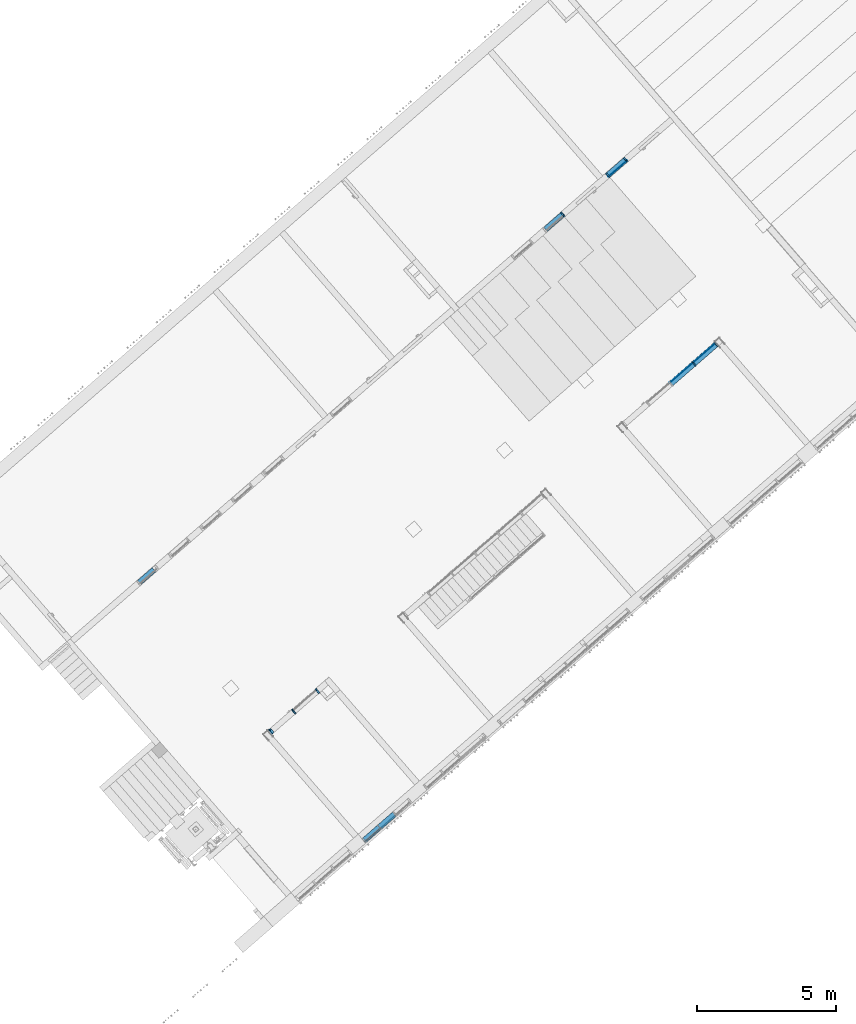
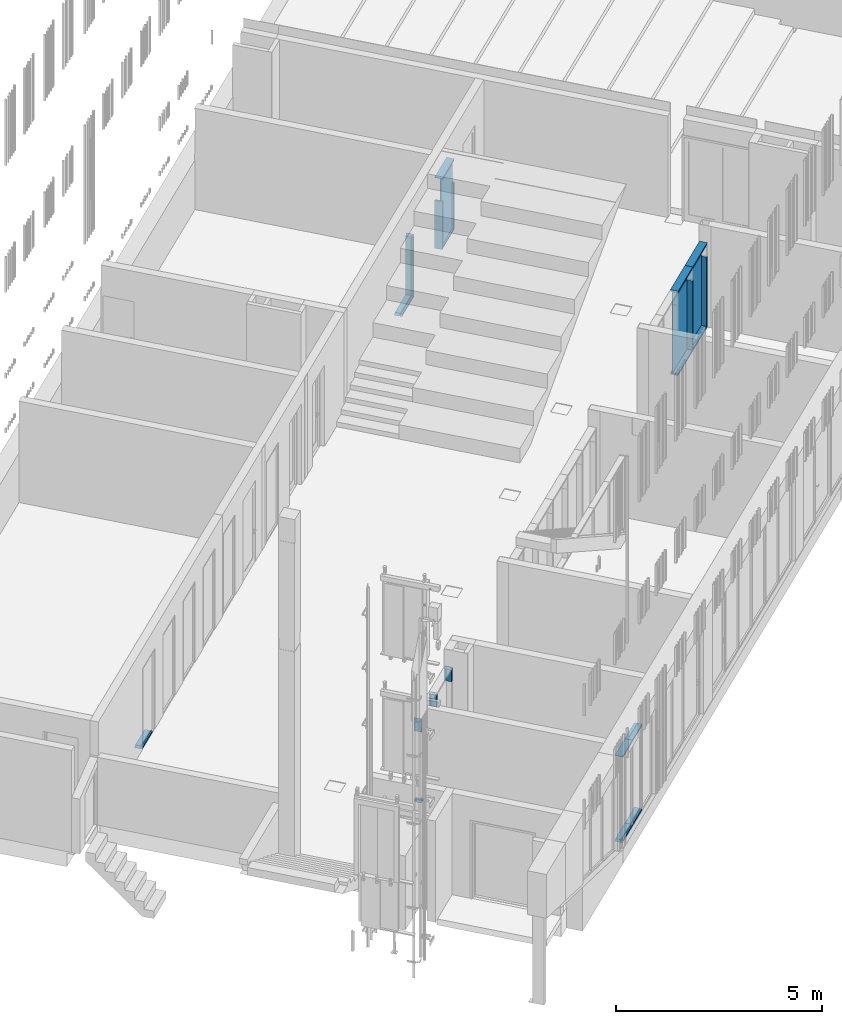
# One storey, part 13 of 124: 24 discrete accessories, 6 elements without a shape of their own.
"""IFC2X3 building model written with IfcOpenShell, lengths in millimetres."""

from ifc_helpers import new_model, entity, si_unit, converted_unit, derived_unit, money_unit, direction, frame, origin_with_axes, place, context, subcontext, project, spatial, polyline, outline, extrude, clip, halfspace, material, material_list, type_object, element, aggregate, save


model = new_model("IFC2X3")

# Units and contexts
model_context = context("Model", 3, precision=1e-05, world=origin_with_axes(), true_north=direction((0.0, 1.0)))
body_context = subcontext(model_context, "Body", "Model", "MODEL_VIEW")
ifc_project = project(units=[si_unit("LENGTHUNIT", "METRE", prefix="MILLI"), si_unit("AREAUNIT", "SQUARE_METRE"), si_unit("VOLUMEUNIT", "CUBIC_METRE"), converted_unit("PLANEANGLEUNIT", "DEGREE", entity("IfcPlaneAngleMeasure", 0.0174532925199), si_unit("PLANEANGLEUNIT", "RADIAN"), dimensions=[0, 0, 0, 0, 0, 0, 0]), si_unit("SOLIDANGLEUNIT", "STERADIAN"), money_unit("EUR"), converted_unit("TIMEUNIT", "Year", entity("IfcTimeMeasure", 31556926.0), si_unit("TIMEUNIT", "SECOND"), dimensions=[0, 0, 1, 0, 0, 0, 0]), si_unit("MASSUNIT", "GRAM", prefix="KILO"), si_unit("THERMODYNAMICTEMPERATUREUNIT", "DEGREE_CELSIUS"), si_unit("LUMINOUSINTENSITYUNIT", "LUMEN"), si_unit("ENERGYUNIT", "JOULE", prefix="MEGA"), derived_unit("THERMALCONDUCTANCEUNIT", [(si_unit("POWERUNIT", "WATT"), 1), (si_unit("LENGTHUNIT", "METRE"), -1), (si_unit("THERMODYNAMICTEMPERATUREUNIT", "KELVIN"), -1)]), derived_unit("SPECIFICHEATCAPACITYUNIT", [(si_unit("ENERGYUNIT", "JOULE"), 1), (si_unit("MASSUNIT", "GRAM", prefix="KILO"), -1), (si_unit("THERMODYNAMICTEMPERATUREUNIT", "KELVIN"), -1)]), derived_unit("MASSDENSITYUNIT", [(si_unit("MASSUNIT", "GRAM", prefix="KILO"), 1), (si_unit("VOLUMEUNIT", "CUBIC_METRE"), -1)])], contexts=[model_context])

# Site, building, storey
site_placement = place(None, origin_with_axes())
site = spatial("IfcSite", under=ifc_project, at=site_placement, Name="Site", CompositionType="ELEMENT")
building_placement = place(site_placement, origin_with_axes())
building = spatial("IfcBuilding", under=site, at=building_placement, Name="Building", CompositionType="ELEMENT")
storey_placement = place(building_placement, frame((0.0, 0.0, -1615.0), z_axis=(0.0, 0.0, 1.0), x_axis=(1.0, 0.0, 0.0)))
storey = spatial("IfcBuildingStorey", under=building, at=storey_placement, Name="0  korrus", CompositionType="ELEMENT", Elevation=-1615.0)

# Curtain wall, discrete accessory
curtain_wall_type_1 = type_object("IfcCurtainWallType", Name="KS-07", PredefinedType="NOTDEFINED")
curtain_wall_1_placement = place(storey_placement, frame((145489.197566, 87628.0086428, -0.000131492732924), z_axis=(0.0, 0.0, 1.0), x_axis=(1.0, 0.0, 0.0)))
curtain_wall_1 = element("IfcCurtainWall", 1, at=curtain_wall_1_placement, inside=storey, type_object=curtain_wall_type_1, Name="Klaas-sein")
ifc_material_1 = material(Name="Aluminium MUST")
ifc_material_list_1 = material_list([ifc_material_1, ifc_material_1, ifc_material_1])
discrete_accessory_type_1 = type_object("IfcDiscreteAccessoryType", Name="50 x 200")
discrete_accessory_1_placement = place(curtain_wall_1_placement, frame((-415.090276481, -360.832472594, 0.0), z_axis=(0.754709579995, 0.656059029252, 0.0), x_axis=(0.0, 0.0, 1.0)))
discrete_accessory_1 = element("IfcDiscreteAccessory", 2, at=discrete_accessory_1_placement, type_object=discrete_accessory_type_1, material=ifc_material_list_1, Name="KS-07 profiil", context=body_context, shape_type="Clipping", body=[
    clip(extrude(outline(polyline([(-9.99999999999, -25.0), (10.0, -25.0), (10.0, 0.0), (-9.99999999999, 0.0), (-9.99999999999, -25.0)])), frame((0.0, 0.0, 0.0), z_axis=(0.0, 0.0, 1.0), x_axis=(0.0, 1.0, 0.0)), (0.0, 0.0, 1.0), 750.0), halfspace(frame((0.0, 0.0, 0.0), z_axis=(-0.707106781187, 0.0, 0.707106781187), x_axis=(0.0, -1.0, 0.0)), True)),
    clip(extrude(outline(polyline([(-150.0, -50.0), (-9.99999999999, -50.0), (-9.99999999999, 0.0), (-150.0, 0.0), (-150.0, -50.0)])), frame((0.0, 0.0, 0.0), z_axis=(0.0, 0.0, 1.0), x_axis=(0.0, 1.0, 0.0)), (0.0, 0.0, 1.0), 750.0), halfspace(frame((0.0, 0.0, 0.0), z_axis=(-0.707106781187, 0.0, 0.707106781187), x_axis=(0.0, -1.0, 0.0)), True)),
    clip(extrude(outline(polyline([(50.0, 0.0), (10.0, 0.0), (10.0, -50.0), (50.0, -50.0), (50.0, 0.0)])), frame((0.0, 0.0, 0.0), z_axis=(0.0, 0.0, 1.0), x_axis=(0.0, 1.0, 0.0)), (0.0, 0.0, 1.0), 750.0), halfspace(frame((0.0, 0.0, 0.0), z_axis=(-0.707106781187, 0.0, 0.707106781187), x_axis=(0.0, -1.0, 0.0)), True)),
])
aggregate(curtain_wall_1, [discrete_accessory_1])

# Curtain wall, discrete accessories
curtain_wall_type_2 = type_object("IfcCurtainWallType", Name="KS-09", PredefinedType="NOTDEFINED")
curtain_wall_2_placement = place(storey_placement, frame((160024.904112, 100263.705583, -1.41054434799e-06), z_axis=(0.0, 0.0, 1.0), x_axis=(1.0, 0.0, 0.0)))
curtain_wall_2 = element("IfcCurtainWall", 3, at=curtain_wall_2_placement, inside=storey, type_object=curtain_wall_type_2, Name="Klaas-sein")
discrete_accessory_type_2 = type_object("IfcDiscreteAccessoryType", Name="50 x 200")
discrete_accessory_2_placement = place(curtain_wall_2_placement, frame((339.619297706, 295.226578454, 0.0), z_axis=(0.0, 0.0, 1.0), x_axis=(-0.754709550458, -0.656059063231, 0.0)))
discrete_accessory_2 = element("IfcDiscreteAccessory", 4, at=discrete_accessory_2_placement, type_object=discrete_accessory_type_2, material=ifc_material_list_1, Name="KS-09 profiil", context=body_context, shape_type="Clipping", body=[
    clip(clip(extrude(outline(polyline([(-25.4283293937, -8.8543810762), (-12.3071481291, -23.9485720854), (6.56059063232, -7.54709550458), (-6.56059063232, 7.54709550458), (-25.4283293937, -8.8543810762)])), frame((0.0, 0.0, 0.0), z_axis=(0.0, 0.0, 1.0), x_axis=(-0.754709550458, 0.656059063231, 0.0)), (0.0, 0.0, 1.0), 1848.93814656), halfspace(frame((852.798450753, 0.0, 567.568709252), z_axis=(-0.832484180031, 0.0, -0.554048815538), x_axis=(0.0, 1.0, 0.0)), True)), halfspace(frame((0.0, 0.0, 0.0), z_axis=(-0.707106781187, 0.0, 0.707106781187), x_axis=(0.0, -1.0, 0.0)), True)),
    clip(clip(extrude(outline(polyline([(-136.144337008, 80.4034794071), (-44.2960681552, -25.255857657), (-6.56059063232, 7.54709550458), (-98.4088594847, 113.206432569), (-136.144337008, 80.4034794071)])), frame((0.0, 0.0, 0.0), z_axis=(0.0, 0.0, 1.0), x_axis=(-0.754709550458, 0.656059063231, 0.0)), (0.0, 0.0, 1.0), 1848.93814656), halfspace(frame((852.798450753, 0.0, 567.568709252), z_axis=(-0.832484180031, 0.0, -0.554048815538), x_axis=(0.0, 1.0, 0.0)), True)), halfspace(frame((0.0, 0.0, 0.0), z_axis=(-0.707106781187, 0.0, 0.707106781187), x_axis=(0.0, -1.0, 0.0)), True)),
    clip(clip(extrude(outline(polyline([(32.8029531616, -37.7354775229), (6.56059063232, -7.54709550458), (-31.1748868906, -40.3500486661), (-4.93252436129, -70.5384306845), (32.8029531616, -37.7354775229)])), frame((0.0, 0.0, 0.0), z_axis=(0.0, 0.0, 1.0), x_axis=(-0.754709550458, 0.656059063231, 0.0)), (0.0, 0.0, 1.0), 1848.93814656), halfspace(frame((852.798450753, 0.0, 567.568709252), z_axis=(-0.832484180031, 0.0, -0.554048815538), x_axis=(0.0, 1.0, 0.0)), True)), halfspace(frame((0.0, 0.0, 0.0), z_axis=(-0.707106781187, 0.0, 0.707106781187), x_axis=(0.0, -1.0, 0.0)), True)),
])
discrete_accessory_3_placement = place(curtain_wall_2_placement, frame((-339.619297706, -295.226578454, 0.0), z_axis=(0.754709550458, 0.656059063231, 0.0), x_axis=(0.0, 0.0, 1.0)))
discrete_accessory_3 = element("IfcDiscreteAccessory", 5, at=discrete_accessory_3_placement, type_object=discrete_accessory_type_2, material=ifc_material_list_1, Name="KS-09 profiil", context=body_context, shape_type="Clipping", body=[
    clip(clip(extrude(outline(polyline([(-9.99999999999, -25.0), (9.99999999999, -25.0), (10.0, 0.0), (-10.0, 0.0), (-9.99999999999, -25.0)])), frame((0.0, 0.0, 0.0), z_axis=(0.0, 0.0, 1.0), x_axis=(0.0, 1.0, 0.0)), (0.0, 0.0, 1.0), 900.0), halfspace(frame((450.0, 0.0, 450.0), z_axis=(-0.707106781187, 0.0, -0.707106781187), x_axis=(0.0, 1.0, 0.0)), True)), halfspace(frame((0.0, 0.0, 0.0), z_axis=(-0.707106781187, 0.0, 0.707106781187), x_axis=(0.0, -1.0, 0.0)), True)),
    clip(clip(extrude(outline(polyline([(-150.0, -50.0), (-10.0, -50.0), (-10.0, 0.0), (-150.0, 0.0), (-150.0, -50.0)])), frame((0.0, 0.0, 0.0), z_axis=(0.0, 0.0, 1.0), x_axis=(0.0, 1.0, 0.0)), (0.0, 0.0, 1.0), 900.0), halfspace(frame((450.0, 0.0, 450.0), z_axis=(-0.707106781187, 0.0, -0.707106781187), x_axis=(0.0, 1.0, 0.0)), True)), halfspace(frame((0.0, 0.0, 0.0), z_axis=(-0.707106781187, 0.0, 0.707106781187), x_axis=(0.0, -1.0, 0.0)), True)),
    clip(clip(extrude(outline(polyline([(50.0, 0.0), (10.0, 0.0), (9.99999999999, -50.0), (50.0, -50.0), (50.0, 0.0)])), frame((0.0, 0.0, 0.0), z_axis=(0.0, 0.0, 1.0), x_axis=(0.0, 1.0, 0.0)), (0.0, 0.0, 1.0), 900.0), halfspace(frame((450.0, 0.0, 450.0), z_axis=(-0.707106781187, 0.0, -0.707106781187), x_axis=(0.0, 1.0, 0.0)), True)), halfspace(frame((0.0, 0.0, 0.0), z_axis=(-0.707106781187, 0.0, 0.707106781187), x_axis=(0.0, -1.0, 0.0)), True)),
])
aggregate(curtain_wall_2, [discrete_accessory_2, discrete_accessory_3])

curtain_wall_type_3 = type_object("IfcCurtainWallType", Name="KS-11", PredefinedType="NOTDEFINED")
curtain_wall_3_placement = place(storey_placement, frame((162288.958776, 102231.818295, -1.76046830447e-05), z_axis=(0.0, 0.0, 1.0), x_axis=(1.0, 0.0, 0.0)))
curtain_wall_3 = element("IfcCurtainWall", 6, at=curtain_wall_3_placement, inside=storey, type_object=curtain_wall_type_3, Name="Klaas-sein")
ifc_material_2 = material(Name="Klaas")
discrete_accessory_type_3 = type_object("IfcDiscreteAccessoryType", Name="Distinct Panel 860 x 666 x 20")
discrete_accessory_4_placement = place(curtain_wall_3_placement, frame((0.0, 0.0, 1171.42857295), z_axis=(0.0, 0.0, 1.0), x_axis=(-0.754709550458, -0.656059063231, 0.0)))
discrete_accessory_4 = element("IfcDiscreteAccessory", 7, at=discrete_accessory_4_placement, type_object=discrete_accessory_type_3, material=ifc_material_2, Name="KS-11 klaaspakett", context=body_context, shape_type="SweptSolid", body=[
    extrude(outline(polyline([(-429.999989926, -908.571459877), (430.00001303, -908.571459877), (430.00001303, 1151.42860615), (-429.999989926, 1151.42860615), (-429.999989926, -908.571459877)])), frame((0.0, -10.0, 0.0), z_axis=(0.0, 1.0, 0.0), x_axis=(1.0, 0.0, 0.0)), (0.0, 0.0, 1.0), 20.0),
])
discrete_accessory_type_4 = type_object("IfcDiscreteAccessoryType", Name="50 x 200")
discrete_accessory_5_placement = place(curtain_wall_3_placement, frame((339.619297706, 295.226578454, 2100.0000198), z_axis=(-0.754709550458, -0.656059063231, 0.0), x_axis=(0.0, 0.0, -1.0)))
discrete_accessory_5 = element("IfcDiscreteAccessory", 8, at=discrete_accessory_5_placement, type_object=discrete_accessory_type_4, material=ifc_material_list_1, Name="KS-11profiil", context=body_context, shape_type="Clipping", body=[
    clip(clip(extrude(outline(polyline([(10.0, 25.0), (-10.0, 25.0), (-10.0, 0.0), (9.99999999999, 0.0), (10.0, 25.0)])), frame((0.0, 0.0, 0.0), z_axis=(0.0, 0.0, 1.0), x_axis=(0.0, -1.0, 0.0)), (0.0, 0.0, 1.0), 900.0), halfspace(frame((450.0, 0.0, 450.0), z_axis=(-0.707106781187, 0.0, -0.707106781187), x_axis=(0.0, 1.0, 0.0)), True)), halfspace(frame((0.0, 0.0, 0.0), z_axis=(-0.707106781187, 0.0, 0.707106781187), x_axis=(0.0, -1.0, 0.0)), True)),
    clip(clip(extrude(outline(polyline([(150.0, 50.0), (9.99999999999, 50.0), (9.99999999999, 0.0), (150.0, 0.0), (150.0, 50.0)])), frame((0.0, 0.0, 0.0), z_axis=(0.0, 0.0, 1.0), x_axis=(0.0, -1.0, 0.0)), (0.0, 0.0, 1.0), 900.0), halfspace(frame((450.0, 0.0, 450.0), z_axis=(-0.707106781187, 0.0, -0.707106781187), x_axis=(0.0, 1.0, 0.0)), True)), halfspace(frame((0.0, 0.0, 0.0), z_axis=(-0.707106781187, 0.0, 0.707106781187), x_axis=(0.0, -1.0, 0.0)), True)),
    clip(clip(extrude(outline(polyline([(-50.0, 0.0), (-10.0, 0.0), (-10.0, 50.0), (-50.0, 50.0), (-50.0, 0.0)])), frame((0.0, 0.0, 0.0), z_axis=(0.0, 0.0, 1.0), x_axis=(0.0, -1.0, 0.0)), (0.0, 0.0, 1.0), 900.0), halfspace(frame((450.0, 0.0, 450.0), z_axis=(-0.707106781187, 0.0, -0.707106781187), x_axis=(0.0, 1.0, 0.0)), True)), halfspace(frame((0.0, 0.0, 0.0), z_axis=(-0.707106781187, 0.0, 0.707106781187), x_axis=(0.0, -1.0, 0.0)), True)),
])
discrete_accessory_6_placement = place(curtain_wall_3_placement, frame((-339.619297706, -295.226578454, -2.0170624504e-05), z_axis=(0.754709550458, 0.656059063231, 0.0), x_axis=(0.0, 0.0, 1.0)))
discrete_accessory_6 = element("IfcDiscreteAccessory", 9, at=discrete_accessory_6_placement, type_object=discrete_accessory_type_4, material=ifc_material_list_1, Name="KS-11profiil", context=body_context, shape_type="Clipping", body=[
    clip(clip(extrude(outline(polyline([(-9.99999999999, -25.0), (10.0, -25.0), (10.0, 0.0), (-9.99999999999, 0.0), (-9.99999999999, -25.0)])), frame((0.0, 0.0, 0.0), z_axis=(0.0, 0.0, 1.0), x_axis=(0.0, 1.0, 0.0)), (0.0, 0.0, 1.0), 900.0), halfspace(frame((450.0, 0.0, 450.0), z_axis=(-0.707106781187, 0.0, -0.707106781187), x_axis=(0.0, 1.0, 0.0)), True)), halfspace(frame((0.0, 0.0, 0.0), z_axis=(-0.707106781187, 0.0, 0.707106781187), x_axis=(0.0, -1.0, 0.0)), True)),
    clip(clip(extrude(outline(polyline([(-150.0, -50.0), (-9.99999999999, -50.0), (-9.99999999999, 0.0), (-150.0, 0.0), (-150.0, -50.0)])), frame((0.0, 0.0, 0.0), z_axis=(0.0, 0.0, 1.0), x_axis=(0.0, 1.0, 0.0)), (0.0, 0.0, 1.0), 900.0), halfspace(frame((450.0, 0.0, 450.0), z_axis=(-0.707106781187, 0.0, -0.707106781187), x_axis=(0.0, 1.0, 0.0)), True)), halfspace(frame((0.0, 0.0, 0.0), z_axis=(-0.707106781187, 0.0, 0.707106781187), x_axis=(0.0, -1.0, 0.0)), True)),
    clip(clip(extrude(outline(polyline([(50.0, 0.0), (10.0, 0.0), (10.0, -50.0), (50.0, -50.0), (50.0, 0.0)])), frame((0.0, 0.0, 0.0), z_axis=(0.0, 0.0, 1.0), x_axis=(0.0, 1.0, 0.0)), (0.0, 0.0, 1.0), 900.0), halfspace(frame((450.0, 0.0, 450.0), z_axis=(-0.707106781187, 0.0, -0.707106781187), x_axis=(0.0, 1.0, 0.0)), True)), halfspace(frame((0.0, 0.0, 0.0), z_axis=(-0.707106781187, 0.0, 0.707106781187), x_axis=(0.0, -1.0, 0.0)), True)),
])
discrete_accessory_7_placement = place(curtain_wall_3_placement, frame((339.619297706, 295.226578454, -2.0170624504e-05), z_axis=(0.0, 0.0, 1.0), x_axis=(-0.754709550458, -0.656059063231, 0.0)))
discrete_accessory_7 = element("IfcDiscreteAccessory", 10, at=discrete_accessory_7_placement, type_object=discrete_accessory_type_4, material=ifc_material_list_1, Name="KS-11profiil", context=body_context, shape_type="Clipping", body=[
    clip(extrude(outline(polyline([(-25.4283293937, -8.8543810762), (-12.3071481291, -23.9485720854), (6.56059063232, -7.54709550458), (-6.56059063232, 7.54709550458), (-25.4283293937, -8.8543810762)])), frame((0.0, 0.0, 0.0), z_axis=(0.0, 0.0, 1.0), x_axis=(-0.754709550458, 0.656059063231, 0.0)), (0.0, 0.0, 1.0), 1414.28573939), halfspace(frame((0.0, 0.0, 0.0), z_axis=(-0.707106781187, 0.0, 0.707106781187), x_axis=(0.0, -1.0, 0.0)), True)),
    clip(extrude(outline(polyline([(-136.144337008, 80.4034794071), (-44.2960681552, -25.255857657), (-6.56059063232, 7.54709550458), (-98.4088594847, 113.206432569), (-136.144337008, 80.4034794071)])), frame((0.0, 0.0, 0.0), z_axis=(0.0, 0.0, 1.0), x_axis=(-0.754709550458, 0.656059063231, 0.0)), (0.0, 0.0, 1.0), 1414.28573939), halfspace(frame((0.0, 0.0, 0.0), z_axis=(-0.707106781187, 0.0, 0.707106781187), x_axis=(0.0, -1.0, 0.0)), True)),
    clip(extrude(outline(polyline([(32.8029531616, -37.7354775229), (6.56059063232, -7.54709550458), (-31.1748868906, -40.3500486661), (-4.93252436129, -70.5384306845), (32.8029531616, -37.7354775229)])), frame((0.0, 0.0, 0.0), z_axis=(0.0, 0.0, 1.0), x_axis=(-0.754709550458, 0.656059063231, 0.0)), (0.0, 0.0, 1.0), 1414.28573939), halfspace(frame((0.0, 0.0, 0.0), z_axis=(-0.707106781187, 0.0, 0.707106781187), x_axis=(0.0, -1.0, 0.0)), True)),
])
discrete_accessory_8_placement = place(curtain_wall_3_placement, frame((-339.619297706, -295.226578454, -2.0170624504e-05), z_axis=(0.0, 0.0, 1.0), x_axis=(-0.754709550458, -0.656059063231, 0.0)))
discrete_accessory_8 = element("IfcDiscreteAccessory", 11, at=discrete_accessory_8_placement, type_object=discrete_accessory_type_4, material=ifc_material_list_1, Name="KS-11profiil", context=body_context, shape_type="Clipping", body=[
    clip(extrude(outline(polyline([(12.3071481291, 23.9485720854), (-6.56059063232, 7.54709550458), (6.56059063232, -7.54709550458), (25.4283293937, 8.8543810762), (12.3071481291, 23.9485720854)])), frame((0.0, 0.0, 0.0), z_axis=(0.0, 0.0, 1.0), x_axis=(-0.754709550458, 0.656059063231, 0.0)), (0.0, 0.0, 1.0), 1414.28573939), halfspace(frame((0.0, 0.0, 0.0), z_axis=(0.707106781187, 0.0, 0.707106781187), x_axis=(0.0, -1.0, 0.0)), True)),
    clip(extrude(outline(polyline([(-60.6733819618, 146.00938573), (-98.4088594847, 113.206432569), (-6.56059063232, 7.54709550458), (31.1748868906, 40.3500486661), (-60.6733819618, 146.00938573)])), frame((0.0, 0.0, 0.0), z_axis=(0.0, 0.0, 1.0), x_axis=(-0.754709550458, 0.656059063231, 0.0)), (0.0, 0.0, 1.0), 1414.28573939), halfspace(frame((0.0, 0.0, 0.0), z_axis=(0.707106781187, 0.0, 0.707106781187), x_axis=(0.0, -1.0, 0.0)), True)),
    clip(extrude(outline(polyline([(32.8029531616, -37.7354775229), (70.5384306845, -4.93252436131), (44.2960681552, 25.255857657), (6.56059063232, -7.54709550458), (32.8029531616, -37.7354775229)])), frame((0.0, 0.0, 0.0), z_axis=(0.0, 0.0, 1.0), x_axis=(-0.754709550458, 0.656059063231, 0.0)), (0.0, 0.0, 1.0), 1414.28573939), halfspace(frame((0.0, 0.0, 0.0), z_axis=(0.707106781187, 0.0, 0.707106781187), x_axis=(0.0, -1.0, 0.0)), True)),
])
aggregate(curtain_wall_3, [discrete_accessory_4, discrete_accessory_5, discrete_accessory_6, discrete_accessory_7, discrete_accessory_8])

curtain_wall_type_4 = type_object("IfcCurtainWallType", Name="KS-15", PredefinedType="NOTDEFINED")
curtain_wall_4_placement = place(storey_placement, frame((150122.79939, 82314.5956207, -1.19209395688e-05), z_axis=(0.0, 0.0, 1.0), x_axis=(1.0, 0.0, 0.0)))
curtain_wall_4 = element("IfcCurtainWall", 12, at=curtain_wall_4_placement, inside=storey, type_object=curtain_wall_type_4, Name="Klaas-sein")
ifc_material_list_2 = material_list([ifc_material_1, ifc_material_1])
discrete_accessory_type_5 = type_object("IfcDiscreteAccessoryType", Name="50 x 200")
discrete_accessory_9_placement = place(curtain_wall_4_placement, frame((482.17558658, 419.148797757, 2100.00001192), z_axis=(0.0, 0.0, 1.0), x_axis=(-0.754709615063, -0.656058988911, 0.0)))
discrete_accessory_9 = element("IfcDiscreteAccessory", 13, at=discrete_accessory_9_placement, type_object=discrete_accessory_type_5, material=ifc_material_list_2, Name="KS-15 profiil", context=body_context, shape_type="SweptSolid", body=[
    extrude(outline(polyline([(-12.3071504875, -23.9485708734), (79.5411079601, -129.607916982), (117.276588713, -96.8049675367), (25.4283302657, 8.85437857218), (-12.3071504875, -23.9485708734)])), frame((0.0, 0.0, 0.0), z_axis=(0.0, 0.0, 1.0), x_axis=(-0.754709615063, 0.656058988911, 0.0)), (0.0, 0.0, 1.0), 349.999998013),
    extrude(outline(polyline([(12.3071504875, 23.9485708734), (-13.935209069, 54.136955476), (-51.6706898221, 21.3340060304), (-25.4283302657, -8.85437857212), (12.3071504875, 23.9485708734)])), frame((0.0, 0.0, 0.0), z_axis=(0.0, 0.0, 1.0), x_axis=(-0.754709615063, 0.656058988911, 0.0)), (0.0, 0.0, 1.0), 349.999998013),
])
discrete_accessory_10_placement = place(curtain_wall_4_placement, frame((-385.740470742, -335.319039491, 2100.00001192), z_axis=(0.0, 0.0, 1.0), x_axis=(-0.754709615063, -0.656058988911, 0.0)))
discrete_accessory_10 = element("IfcDiscreteAccessory", 14, at=discrete_accessory_10_placement, type_object=discrete_accessory_type_5, material=ifc_material_1, Name="KS-15 profiil", context=body_context, shape_type="Clipping", body=[
    clip(extrude(outline(polyline([(25.4283302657, 8.85437857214), (12.3071504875, 23.9485708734), (31.174890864, 40.3500455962), (4.93253130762, 70.5384301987), (-32.8029494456, 37.7354807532), (98.4088483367, -113.206442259), (136.14432909, -80.4034928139), (44.2960706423, 25.2558532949), (25.4283302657, 8.85437857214)])), frame((0.0, 0.0, 0.0), z_axis=(0.0, 0.0, 1.0), x_axis=(-0.754709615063, 0.656058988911, 0.0)), (0.0, 0.0, 1.0), 399.999998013), halfspace(frame((-199.999999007, 0.0, 199.999999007), z_axis=(0.707106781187, 0.0, -0.707106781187), x_axis=(0.0, 1.0, 0.0)), True)),
])
discrete_accessory_11_placement = place(curtain_wall_4_placement, frame((1350.09233214, 1173.61723328, 2100.00001192), z_axis=(0.0, 0.0, 1.0), x_axis=(-0.754709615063, -0.656058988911, 0.0)))
discrete_accessory_11 = element("IfcDiscreteAccessory", 15, at=discrete_accessory_11_placement, type_object=discrete_accessory_type_5, material=ifc_material_1, Name="KS-15 profiil", context=body_context, shape_type="Clipping", body=[
    clip(extrude(outline(polyline([(-12.3071504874, -23.9485708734), (-31.174890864, -40.3500455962), (60.6733675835, -146.009391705), (98.4088483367, -113.206442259), (-32.8029494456, 37.7354807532), (-70.5384301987, 4.93253130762), (-44.2960706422, -25.2558532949), (-25.4283302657, -8.85437857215), (-12.3071504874, -23.9485708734)])), frame((0.0, 0.0, 0.0), z_axis=(0.0, 0.0, 1.0), x_axis=(-0.754709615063, 0.656058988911, 0.0)), (0.0, 0.0, 1.0), 399.999998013), halfspace(frame((199.999999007, 0.0, 199.999999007), z_axis=(-0.707106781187, 0.0, -0.707106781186), x_axis=(0.0, 1.0, 0.0)), True)),
])
discrete_accessory_12_placement = place(curtain_wall_4_placement, frame((-385.740470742, -335.319039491, 0.0), z_axis=(0.754709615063, 0.656058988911, 0.0), x_axis=(0.0, 0.0, 1.0)))
discrete_accessory_12 = element("IfcDiscreteAccessory", 16, at=discrete_accessory_12_placement, type_object=discrete_accessory_type_5, material=ifc_material_1, Name="KS-15 profiil", context=body_context, shape_type="Clipping", body=[
    clip(extrude(outline(polyline([(10.0, -25.0), (10.0, -50.0), (150.0, -50.0), (150.0, 0.0), (-50.0, 0.0), (-50.0, -50.0), (-9.99999999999, -50.0), (-9.99999999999, -25.0), (10.0, -25.0)])), frame((0.0, 0.0, 0.0), z_axis=(0.0, 0.0, 1.0), x_axis=(0.0, 1.0, 0.0)), (0.0, 0.0, 1.0), 127.777785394), halfspace(frame((0.0, 0.0, 0.0), z_axis=(-0.707106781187, 0.0, 0.707106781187), x_axis=(0.0, -1.0, 0.0)), True)),
])
aggregate(curtain_wall_4, [discrete_accessory_9, discrete_accessory_10, discrete_accessory_11, discrete_accessory_12])

curtain_wall_type_5 = type_object("IfcCurtainWallType", Name="KS-13", PredefinedType="NOTDEFINED")
curtain_wall_5_placement = place(storey_placement, frame((162918.061807, 93437.3475866, 0.0), z_axis=(0.0, 0.0, 1.0), x_axis=(1.0, 0.0, 0.0)))
curtain_wall_5 = element("IfcCurtainWall", 17, at=curtain_wall_5_placement, inside=storey, type_object=curtain_wall_type_5, Name="Klaas-sein")
discrete_accessory_type_6 = type_object("IfcDiscreteAccessoryType", Name="Distinct Panel 1090 x 380 x 20")
discrete_accessory_13_placement = place(curtain_wall_5_placement, frame((1667.90816951, 1449.89045727, 1533.33331403), z_axis=(0.0, 0.0, 1.0), x_axis=(-0.754709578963, -0.65605903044, 0.0)))
discrete_accessory_13 = element("IfcDiscreteAccessory", 18, at=discrete_accessory_13_placement, type_object=discrete_accessory_type_6, material=ifc_material_2, Name="KS-13 klaaspakett", context=body_context, shape_type="SweptSolid", body=[
    extrude(outline(polyline([(-544.999982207, -946.666643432), (545.0, -946.666643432), (545.0, 1513.3333294), (-544.999982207, 1513.3333294), (-544.999982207, -946.666643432)])), frame((0.0, -9.99999999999, 0.0), z_axis=(0.0, 1.0, 0.0), x_axis=(1.0, 0.0, 0.0)), (0.0, 0.0, 1.0), 20.0),
])
discrete_accessory_type_7 = type_object("IfcDiscreteAccessoryType", Name="Distinct Panel 1070 x 380 x 20")
discrete_accessory_14_placement = place(curtain_wall_5_placement, frame((2490.54161058, 2164.99480045, 1533.33331403), z_axis=(0.0, 0.0, 1.0), x_axis=(-0.754709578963, -0.65605903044, 0.0)))
discrete_accessory_14 = element("IfcDiscreteAccessory", 19, at=discrete_accessory_14_placement, type_object=discrete_accessory_type_7, material=ifc_material_2, Name="KS-13 klaaspakett", context=body_context, shape_type="SweptSolid", body=[
    extrude(outline(polyline([(-525.000012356, -946.666643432), (544.999985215, -946.666643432), (544.999985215, 1513.3333294), (-525.000012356, 1513.3333294), (-525.000012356, -946.666643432)])), frame((0.0, -9.99999999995, 0.0), z_axis=(0.0, 1.0, 0.0), x_axis=(1.0, 0.0, 0.0)), (0.0, 0.0, 1.0), 20.0),
])
discrete_accessory_type_8 = type_object("IfcDiscreteAccessoryType", Name="50 x 200")
discrete_accessory_15_placement = place(curtain_wall_5_placement, frame((2079.22489004, 1807.44262886, 2499.9999421), z_axis=(-0.754709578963, -0.65605903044, 0.0), x_axis=(0.0, 0.0, -1.0)))
discrete_accessory_15 = element("IfcDiscreteAccessory", 20, at=discrete_accessory_15_placement, type_object=discrete_accessory_type_8, material=ifc_material_1, Name="KS-13 profiil", context=body_context, shape_type="SweptSolid", body=[
    extrude(outline(polyline([(-9.99999999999, 25.0), (-9.99999999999, 50.0), (-150.0, 50.0), (-150.0, 0.0), (50.0, 0.0), (50.0, 50.0), (10.0, 50.0), (10.0, 25.0), (-9.99999999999, 25.0)])), frame((0.0, 0.0, 0.0), z_axis=(0.0, 0.0, 1.0), x_axis=(0.0, -1.0, 0.0)), (0.0, 0.0, 1.0), 1090.0),
])
discrete_accessory_16_placement = place(curtain_wall_5_placement, frame((2901.85833111, 2522.54697204, 2499.9999421), z_axis=(-0.754709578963, -0.65605903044, 0.0), x_axis=(0.0, 0.0, -1.0)))
discrete_accessory_16 = element("IfcDiscreteAccessory", 21, at=discrete_accessory_16_placement, type_object=discrete_accessory_type_8, material=ifc_material_1, Name="KS-13 profiil", context=body_context, shape_type="Clipping", body=[
    clip(extrude(outline(polyline([(-9.99999999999, 25.0), (-9.99999999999, 50.0), (-150.0, 50.0), (-150.0, 0.0), (50.0, 0.0), (50.0, 50.0), (10.0, 50.0), (10.0, 25.0), (-9.99999999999, 25.0)])), frame((0.0, 0.0, 0.0), z_axis=(0.0, 0.0, 1.0), x_axis=(0.0, -1.0, 0.0)), (0.0, 0.0, 1.0), 1090.0), halfspace(frame((0.0, 0.0, 0.0), z_axis=(-0.707106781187, 0.0, 0.707106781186), x_axis=(0.0, -1.0, 0.0)), True)),
])
discrete_accessory_17_placement = place(curtain_wall_5_placement, frame((2079.22489004, 1807.44262886, 0.0), z_axis=(0.0, 0.0, 1.0), x_axis=(-0.754709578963, -0.65605903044, 0.0)))
discrete_accessory_17 = element("IfcDiscreteAccessory", 22, at=discrete_accessory_17_placement, type_object=discrete_accessory_type_8, material=ifc_material_list_2, Name="KS-13 profiil", context=body_context, shape_type="SweptSolid", body=[
    extrude(outline(polyline([(-12.3071491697, -23.9485715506), (79.5411150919, -129.607912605), (117.27659404, -96.8049610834), (25.4283297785, 8.85437997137), (-12.3071491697, -23.9485715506)])), frame((0.0, 0.0, 50.0), z_axis=(0.0, 0.0, 1.0), x_axis=(-0.754709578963, 0.65605903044, 0.0)), (0.0, 0.0, 1.0), 2050.0),
    extrude(outline(polyline([(12.3071491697, 23.9485715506), (-13.9352120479, 54.1369547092), (-51.670690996, 21.3340031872), (-25.4283297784, -8.85437997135), (12.3071491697, 23.9485715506)])), frame((0.0, 0.0, 50.0), z_axis=(0.0, 0.0, 1.0), x_axis=(-0.754709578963, 0.65605903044, 0.0)), (0.0, 0.0, 1.0), 2050.0),
])
discrete_accessory_18_placement = place(curtain_wall_5_placement, frame((2901.85833111, 2522.54697204, 0.0), z_axis=(0.0, 0.0, 1.0), x_axis=(-0.754709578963, -0.65605903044, 0.0)))
discrete_accessory_18 = element("IfcDiscreteAccessory", 23, at=discrete_accessory_18_placement, type_object=discrete_accessory_type_8, material=ifc_material_1, Name="KS-13 profiil", context=body_context, shape_type="Clipping", body=[
    clip(extrude(outline(polyline([(-12.3071491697, -23.9485715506), (-31.1748886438, -40.3500473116), (60.6733756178, -146.009388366), (98.408854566, -113.206436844), (-32.802951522, 37.7354789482), (-70.5384304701, 4.93252742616), (-44.2960692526, -25.2558557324), (-25.4283297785, -8.85437997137), (-12.3071491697, -23.9485715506)])), frame((0.0, 0.0, 0.0), z_axis=(0.0, 0.0, 1.0), x_axis=(-0.754709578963, 0.65605903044, 0.0)), (0.0, 0.0, 1.0), 2100.0), halfspace(frame((0.0, 0.0, 0.0), z_axis=(-0.707106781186, 0.0, 0.707106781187), x_axis=(0.0, -1.0, 0.0)), True)),
])
discrete_accessory_19_placement = place(curtain_wall_5_placement, frame((2079.22489004, 1807.44262886, 0.0), z_axis=(0.754709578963, 0.65605903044, 0.0), x_axis=(0.0, 0.0, 1.0)))
discrete_accessory_19 = element("IfcDiscreteAccessory", 24, at=discrete_accessory_19_placement, type_object=discrete_accessory_type_8, material=ifc_material_1, Name="KS-13 profiil", context=body_context, shape_type="Clipping", body=[
    clip(extrude(outline(polyline([(9.99999999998, -25.0), (10.0, -50.0), (150.0, -50.0), (150.0, 0.0), (-50.0, 0.0), (-50.0, -50.0), (-10.0, -50.0), (-10.0, -25.0), (9.99999999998, -25.0)])), frame((0.0, 0.0, 0.0), z_axis=(0.0, 0.0, 1.0), x_axis=(0.0, 1.0, 0.0)), (0.0, 0.0, 1.0), 1090.0), halfspace(frame((545.0, 0.0, 545.0), z_axis=(-0.707106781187, 0.0, -0.707106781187), x_axis=(0.0, 1.0, 0.0)), True)),
])
discrete_accessory_20_placement = place(curtain_wall_5_placement, frame((1256.59144897, 1092.33828568, 0.0), z_axis=(0.754709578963, 0.65605903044, 0.0), x_axis=(0.0, 0.0, 1.0)))
discrete_accessory_20 = element("IfcDiscreteAccessory", 25, at=discrete_accessory_20_placement, type_object=discrete_accessory_type_8, material=ifc_material_1, Name="KS-13 profiil", context=body_context, shape_type="SweptSolid", body=[
    extrude(outline(polyline([(9.99999999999, -25.0), (9.99999999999, -50.0), (150.0, -50.0), (150.0, 0.0), (-50.0, 0.0), (-50.0, -50.0), (-9.99999999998, -50.0), (-9.99999999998, -25.0), (9.99999999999, -25.0)])), frame((0.0, 0.0, 0.0), z_axis=(0.0, 0.0, 1.0), x_axis=(0.0, 1.0, 0.0)), (0.0, 0.0, 1.0), 1090.0),
])
aggregate(curtain_wall_5, [discrete_accessory_13, discrete_accessory_14, discrete_accessory_15, discrete_accessory_16, discrete_accessory_17, discrete_accessory_18, discrete_accessory_19, discrete_accessory_20])

curtain_wall_type_6 = type_object("IfcCurtainWallType", Name="KLF-06", PredefinedType="NOTDEFINED")
curtain_wall_6_placement = place(storey_placement, frame((153469.056116, 78253.8889067, 0.0), z_axis=(0.0, 0.0, 1.0), x_axis=(1.0, 0.0, 0.0)))
curtain_wall_6 = element("IfcCurtainWall", 26, at=curtain_wall_6_placement, inside=storey, type_object=curtain_wall_type_6, Name="Klaasfassaad")
discrete_accessory_type_9 = type_object("IfcDiscreteAccessoryType", Name="50 x 200")
discrete_accessory_21_placement = place(curtain_wall_6_placement, frame((-281.129820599, -244.381410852, 0.0), z_axis=(0.754710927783, 0.656057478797, 0.0), x_axis=(0.0, 0.0, 1.0)))
discrete_accessory_21 = element("IfcDiscreteAccessory", 27, at=discrete_accessory_21_placement, type_object=discrete_accessory_type_9, material=ifc_material_list_1, Name="KLF-06 profiil", context=body_context, shape_type="Clipping", body=[
    clip(extrude(outline(polyline([(-10.0, -25.0), (9.99999999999, -25.0), (9.99999999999, 0.0), (-10.0, 0.0), (-10.0, -25.0)])), frame((0.0, 0.0, 0.0), z_axis=(0.0, 0.0, 1.0), x_axis=(0.0, 1.0, 0.0)), (0.0, 0.0, 1.0), 745.0), halfspace(frame((0.0, 0.0, 0.0), z_axis=(-0.707106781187, 0.0, 0.707106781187), x_axis=(0.0, -1.0, 0.0)), True)),
    clip(extrude(outline(polyline([(-150.0, -50.0), (-10.0, -50.0), (-10.0, 0.0), (-150.0, 0.0), (-150.0, -50.0)])), frame((0.0, 0.0, 0.0), z_axis=(0.0, 0.0, 1.0), x_axis=(0.0, 1.0, 0.0)), (0.0, 0.0, 1.0), 745.0), halfspace(frame((0.0, 0.0, 0.0), z_axis=(-0.707106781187, 0.0, 0.707106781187), x_axis=(0.0, -1.0, 0.0)), True)),
    clip(extrude(outline(polyline([(50.0, 0.0), (9.99999999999, 0.0), (9.99999999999, -50.0), (50.0, -50.0), (50.0, 0.0)])), frame((0.0, 0.0, 0.0), z_axis=(0.0, 0.0, 1.0), x_axis=(0.0, 1.0, 0.0)), (0.0, 0.0, 1.0), 745.0), halfspace(frame((0.0, 0.0, 0.0), z_axis=(-0.707106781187, 0.0, 0.707106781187), x_axis=(0.0, -1.0, 0.0)), True)),
])
discrete_accessory_22_placement = place(curtain_wall_6_placement, frame((-281.129820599, -244.381410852, 2550.00001878), z_axis=(0.754710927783, 0.656057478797, 0.0), x_axis=(0.0, 0.0, 1.0)))
discrete_accessory_22 = element("IfcDiscreteAccessory", 28, at=discrete_accessory_22_placement, type_object=discrete_accessory_type_9, material=ifc_material_list_1, Name="KLF-06 profiil", context=body_context, shape_type="Clipping", body=[
    clip(extrude(outline(polyline([(-10.0, 25.0), (-10.0, 0.0), (9.99999999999, 0.0), (9.99999999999, 25.0), (-10.0, 25.0)])), frame((0.0, 0.0, 0.0), z_axis=(0.0, 0.0, 1.0), x_axis=(0.0, 1.0, 0.0)), (0.0, 0.0, 1.0), 745.0), halfspace(frame((0.0, 0.0, 0.0), z_axis=(0.707106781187, 0.0, 0.707106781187), x_axis=(0.0, -1.0, 0.0)), True)),
    clip(extrude(outline(polyline([(-150.0, 50.0), (-150.0, 0.0), (-10.0, 0.0), (-10.0, 50.0), (-150.0, 50.0)])), frame((0.0, 0.0, 0.0), z_axis=(0.0, 0.0, 1.0), x_axis=(0.0, 1.0, 0.0)), (0.0, 0.0, 1.0), 745.0), halfspace(frame((0.0, 0.0, 0.0), z_axis=(0.707106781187, 0.0, 0.707106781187), x_axis=(0.0, -1.0, 0.0)), True)),
    clip(extrude(outline(polyline([(50.0, 0.0), (50.0, 50.0), (9.99999999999, 50.0), (9.99999999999, 0.0), (50.0, 0.0)])), frame((0.0, 0.0, 0.0), z_axis=(0.0, 0.0, 1.0), x_axis=(0.0, 1.0, 0.0)), (0.0, 0.0, 1.0), 745.0), halfspace(frame((0.0, 0.0, 0.0), z_axis=(0.707106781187, 0.0, 0.707106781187), x_axis=(0.0, -1.0, 0.0)), True)),
])
discrete_accessory_23_placement = place(curtain_wall_6_placement, frame((281.129820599, 244.381410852, 0.0), z_axis=(0.754710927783, 0.656057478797, 0.0), x_axis=(0.0, 0.0, 1.0)))
discrete_accessory_23 = element("IfcDiscreteAccessory", 29, at=discrete_accessory_23_placement, type_object=discrete_accessory_type_9, material=ifc_material_list_1, Name="KLF-06 profiil", context=body_context, shape_type="SweptSolid", body=[
    extrude(outline(polyline([(-9.99999999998, -25.0), (10.0, -25.0), (10.0, 0.0), (-9.99999999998, 0.0), (-9.99999999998, -25.0)])), frame((0.0, 0.0, 0.0), z_axis=(0.0, 0.0, 1.0), x_axis=(0.0, 1.0, 0.0)), (0.0, 0.0, 1.0), 720.0),
    extrude(outline(polyline([(-150.0, -50.0), (-9.99999999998, -50.0), (-9.99999999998, 0.0), (-150.0, 0.0), (-150.0, -50.0)])), frame((0.0, 0.0, 0.0), z_axis=(0.0, 0.0, 1.0), x_axis=(0.0, 1.0, 0.0)), (0.0, 0.0, 1.0), 720.0),
    extrude(outline(polyline([(50.0, 0.0), (10.0, 0.0), (10.0, -50.0), (50.0, -50.0), (50.0, 0.0)])), frame((0.0, 0.0, 0.0), z_axis=(0.0, 0.0, 1.0), x_axis=(0.0, 1.0, 0.0)), (0.0, 0.0, 1.0), 720.0),
])
discrete_accessory_24_placement = place(curtain_wall_6_placement, frame((281.129820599, 244.381410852, 2550.00001878), z_axis=(0.754710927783, 0.656057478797, 0.0), x_axis=(0.0, 0.0, 1.0)))
discrete_accessory_24 = element("IfcDiscreteAccessory", 30, at=discrete_accessory_24_placement, type_object=discrete_accessory_type_9, material=ifc_material_list_1, Name="KLF-06 profiil", context=body_context, shape_type="SweptSolid", body=[
    extrude(outline(polyline([(-9.99999999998, 25.0), (-9.99999999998, 0.0), (10.0, 0.0), (10.0, 25.0), (-9.99999999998, 25.0)])), frame((0.0, 0.0, 0.0), z_axis=(0.0, 0.0, 1.0), x_axis=(0.0, 1.0, 0.0)), (0.0, 0.0, 1.0), 720.0),
    extrude(outline(polyline([(-150.0, 50.0), (-150.0, 0.0), (-9.99999999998, 0.0), (-9.99999999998, 50.0), (-150.0, 50.0)])), frame((0.0, 0.0, 0.0), z_axis=(0.0, 0.0, 1.0), x_axis=(0.0, 1.0, 0.0)), (0.0, 0.0, 1.0), 720.0),
    extrude(outline(polyline([(50.0, 0.0), (50.0, 50.0), (10.0, 50.0), (10.0, 0.0), (50.0, 0.0)])), frame((0.0, 0.0, 0.0), z_axis=(0.0, 0.0, 1.0), x_axis=(0.0, 1.0, 0.0)), (0.0, 0.0, 1.0), 720.0),
])
aggregate(curtain_wall_6, [discrete_accessory_21, discrete_accessory_22, discrete_accessory_23, discrete_accessory_24])

save(model, "model.ifc")
